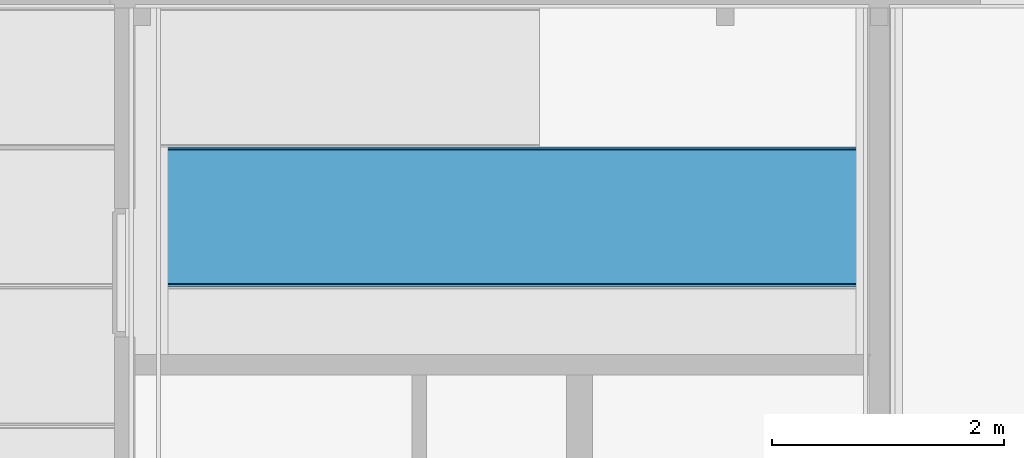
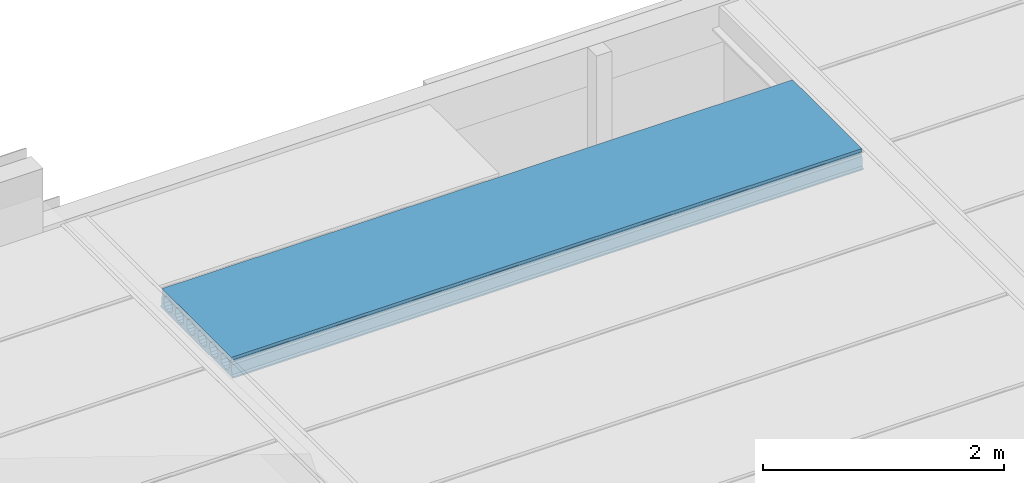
# One storey, part 15 of 45: 1 beam.
"""IFC2X3 building model written with IfcOpenShell, lengths in millimetres."""

from ifc_helpers import new_model, entity, si_unit, converted_unit, frame, origin, place, context, subcontext, project, spatial, faceted_brep, material, element, save


model = new_model("IFC2X3")

# Units and contexts
model_context = context("Model", 3, precision=1e-05, world=origin())
plan_context = context("Plan", 3, precision=1e-05, world=origin())
body_context = subcontext(model_context, "Body", "Model", "MODEL_VIEW")
ifc_project = project(units=[si_unit("LENGTHUNIT", "METRE", prefix="MILLI"), converted_unit("PLANEANGLEUNIT", "DEGREE", entity("IfcPlaneAngleMeasure", 0.0174532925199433), si_unit("PLANEANGLEUNIT", "RADIAN"), dimensions=[0, 0, 0, 0, 0, 0, 0]), si_unit("AREAUNIT", "SQUARE_METRE"), si_unit("VOLUMEUNIT", "CUBIC_METRE")], contexts=[model_context, plan_context])

# Building, storey
building_placement = place(None, origin())
building = spatial("IfcBuilding", under=ifc_project, at=building_placement, Name="HEKF Administrasjonbygg", CompositionType="ELEMENT")
storey_placement = place(building_placement, frame((0.0, 0.0, 6500.0), z_axis=(0.0, 0.0, 1.0), x_axis=(1.0, 0.0, 0.0)))
storey = spatial("IfcBuildingStorey", under=building, at=storey_placement, Name="Plan 1", CompositionType="ELEMENT", Elevation=6500.0)

# Beam
ifc_material = material()
beam_placement = place(storey_placement, frame((0.0, 0.0, -6500.0), z_axis=(0.0, 0.0, 1.0), x_axis=(1.0, 0.0, 0.0)))
element("IfcBeam", 1, at=beam_placement, inside=storey, material=ifc_material, context=body_context, shape_type="Brep", body=[
    faceted_brep([(10135.0, -1199.999999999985, 9684.999999), (10135.0, -1199.999999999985, 9670.0), (16189.99999999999, -1200.0, 9670.000000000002), (16189.99999999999, -1200.0, 9684.999999), (10135.0, -2399.999999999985, 9684.999999), (10135.0, -2399.999999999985, 9670.0), (10135.0, -1199.999999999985, 9670.0), (10135.0, -1199.999999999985, 9684.999999), (10135.0, -1214.99987952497, 9699.999998), (10135.0, -1220.000002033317, 9794.999985), (10135.0, -1235.000003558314, 9809.999985), (10135.0, -1235.000003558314, 9829.999985), (10135.0, -1222.727297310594, 9842.272583), (10135.0, -1224.047732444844, 9870.0), (10135.0, -2375.952372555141, 9870.0), (10135.0, -2377.272729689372, 9842.272735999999), (10135.0, -2365.000000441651, 9829.999985), (10135.0, -2365.000000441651, 9809.999985), (10135.0, -2380.000001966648, 9794.999985), (10135.0, -2384.999999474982, 9699.999998), (10135.0, -2274.999987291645, 9694.999989), (10135.0, -2303.701261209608, 9700.709023), (10135.0, -2328.033020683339, 9716.966995), (10135.0, -2344.290964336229, 9741.298752), (10135.0, -2344.290960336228, 9798.701262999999), (10135.0, -2328.032997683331, 9823.03299), (10135.0, -2303.70124620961, 9839.290955), (10135.0, -2274.999987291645, 9845.0), (10135.0, -2246.298721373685, 9839.290955), (10135.0, -2221.966976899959, 9823.033005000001), (10135.0, -2205.709010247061, 9798.701233), (10135.0, -2205.708980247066, 9741.298767), (10135.0, -2221.966961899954, 9716.966995), (10135.0, -2246.29870537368, 9700.709023), (10135.0, -2084.999967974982, 9694.999989), (10135.0, -2113.701241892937, 9700.709023), (10135.0, -2138.033001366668, 9716.966995), (10135.0, -2154.290945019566, 9741.298752), (10135.0, -2154.290941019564, 9798.701262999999), (10135.0, -2138.032978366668, 9823.03299), (10135.0, -2113.701226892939, 9839.290955), (10135.0, -2084.999967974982, 9845.0), (10135.0, -2056.298702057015, 9839.290955), (10135.0, -2031.966957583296, 9823.033005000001), (10135.0, -2015.708990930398, 9798.701233), (10135.0, -2015.708960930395, 9741.298767), (10135.0, -2031.966942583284, 9716.966995), (10135.0, -2056.298686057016, 9700.709023), (10135.0, -1894.999948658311, 9694.999989), (10135.0, -1923.701222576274, 9700.709023), (10135.0, -1948.032982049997, 9716.966995), (10135.0, -1964.290925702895, 9741.298752), (10135.0, -1964.290921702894, 9798.701262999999), (10135.0, -1948.032959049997, 9823.03299), (10135.0, -1923.701207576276, 9839.290955), (10135.0, -1894.999948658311, 9845.0), (10135.0, -1866.298682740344, 9839.290955), (10135.0, -1841.966938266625, 9823.033005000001), (10135.0, -1825.708971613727, 9798.701233), (10135.0, -1825.708941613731, 9741.298767), (10135.0, -1841.96692326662, 9716.966995), (10135.0, -1866.298666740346, 9700.709023), (10135.0, -1704.99992934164, 9694.999989), (10135.0, -1733.701203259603, 9700.709023), (10135.0, -1758.032962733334, 9716.966995), (10135.0, -1774.290906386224, 9741.298752), (10135.0, -1774.290902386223, 9798.701262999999), (10135.0, -1758.032939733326, 9823.03299), (10135.0, -1733.701188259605, 9839.290955), (10135.0, -1704.99992934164, 9845.0), (10135.0, -1676.29866342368, 9839.290955), (10135.0, -1651.966918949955, 9823.033005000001), (10135.0, -1635.708952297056, 9798.701233), (10135.0, -1635.708922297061, 9741.298767), (10135.0, -1651.96690394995, 9716.966995), (10135.0, -1676.298647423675, 9700.709023), (10135.0, -1514.999910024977, 9694.999989), (10135.0, -1543.701183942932, 9700.709023), (10135.0, -1568.032943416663, 9716.966995), (10135.0, -1584.290887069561, 9741.298752), (10135.0, -1584.29088306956, 9798.701262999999), (10135.0, -1568.032920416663, 9823.03299), (10135.0, -1543.701168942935, 9839.290955), (10135.0, -1514.999910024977, 9845.0), (10135.0, -1486.29864410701, 9839.290955), (10135.0, -1461.966899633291, 9823.033005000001), (10135.0, -1445.708932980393, 9798.701233), (10135.0, -1445.70890298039, 9741.298767), (10135.0, -1461.966884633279, 9716.966995), (10135.0, -1486.298628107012, 9700.709023), (10135.0, -1324.999890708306, 9694.999989), (10135.0, -1353.701164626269, 9700.709023), (10135.0, -1378.032924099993, 9716.966995), (10135.0, -1394.29086775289, 9741.298752), (10135.0, -1394.290863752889, 9798.701262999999), (10135.0, -1378.032901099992, 9823.03299), (10135.0, -1353.701149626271, 9839.290955), (10135.0, -1324.999890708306, 9845.0), (10135.0, -1296.298624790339, 9839.290955), (10135.0, -1271.966880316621, 9823.033005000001), (10135.0, -1255.708913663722, 9798.701233), (10135.0, -1255.708883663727, 9741.298767), (10135.0, -1271.966865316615, 9716.966995), (10135.0, -1296.298608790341, 9700.709023), (16190.0, -2400.0, 9684.999999), (16190.0, -2400.0, 9670.0), (10135.0, -2399.999999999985, 9670.0), (10135.0, -2399.999999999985, 9684.999999), (16189.99999999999, -1200.0, 9684.999999), (16189.99999999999, -1200.0, 9670.000000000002), (16190.0, -2400.0, 9670.0), (16190.0, -2400.0, 9684.999999), (16190.0, -2384.999999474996, 9699.999998), (16190.0, -2380.000001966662, 9794.999985), (16190.0, -2365.000000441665, 9809.999985), (16190.0, -2365.000000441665, 9829.999985), (16190.0, -2377.272729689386, 9842.272735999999), (16190.0, -2375.952372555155, 9870.0), (16190.0, -1224.047732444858, 9870.0), (16190.0, -1222.727297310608, 9842.272583), (16190.0, -1235.000003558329, 9829.999985), (16190.0, -1235.000003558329, 9809.999985), (16190.0, -1220.000002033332, 9794.999985), (16190.0, -1214.999879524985, 9699.999998), (16190.0, -1324.999890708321, 9694.999989), (16190.0, -1296.298608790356, 9700.709023), (16190.0, -1271.96686531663, 9716.966995), (16190.0, -1255.708883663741, 9741.298767), (16190.0, -1255.708913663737, 9798.701233), (16190.0, -1271.966880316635, 9823.033005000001), (16190.0, -1296.298624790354, 9839.290955), (16190.0, -1324.999890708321, 9845.0), (16190.0, -1353.701149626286, 9839.290955), (16190.0, -1378.032901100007, 9823.03299), (16190.0, -1394.290863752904, 9798.701262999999), (16190.0, -1394.290867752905, 9741.298752), (16190.0, -1378.032924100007, 9716.966995), (16190.0, -1353.701164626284, 9700.709023), (16190.0, -1514.999910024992, 9694.999989), (16190.0, -1486.298628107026, 9700.709023), (16190.0, -1461.966884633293, 9716.966995), (16190.0, -1445.708902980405, 9741.298767), (16190.0, -1445.708932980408, 9798.701233), (16190.0, -1461.966899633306, 9823.033005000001), (16190.0, -1486.298644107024, 9839.290955), (16190.0, -1514.999910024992, 9845.0), (16190.0, -1543.701168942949, 9839.290955), (16190.0, -1568.032920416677, 9823.03299), (16190.0, -1584.290883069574, 9798.701262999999), (16190.0, -1584.290887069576, 9741.298752), (16190.0, -1568.032943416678, 9716.966995), (16190.0, -1543.701183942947, 9700.709023), (16190.0, -1704.999929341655, 9694.999989), (16190.0, -1676.29864742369, 9700.709023), (16190.0, -1651.966903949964, 9716.966995), (16190.0, -1635.708922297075, 9741.298767), (16190.0, -1635.708952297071, 9798.701233), (16190.0, -1651.966918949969, 9823.033005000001), (16190.0, -1676.298663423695, 9839.290955), (16190.0, -1704.999929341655, 9845.0), (16190.0, -1733.70118825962, 9839.290955), (16190.0, -1758.032939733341, 9823.03299), (16190.0, -1774.290902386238, 9798.701262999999), (16190.0, -1774.290906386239, 9741.298752), (16190.0, -1758.032962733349, 9716.966995), (16190.0, -1733.701203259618, 9700.709023), (16190.0, -1894.999948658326, 9694.999989), (16190.0, -1866.29866674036, 9700.709023), (16190.0, -1841.966923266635, 9716.966995), (16190.0, -1825.708941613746, 9741.298767), (16190.0, -1825.708971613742, 9798.701233), (16190.0, -1841.96693826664, 9823.033005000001), (16190.0, -1866.298682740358, 9839.290955), (16190.0, -1894.999948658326, 9845.0), (16190.0, -1923.701207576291, 9839.290955), (16190.0, -1948.032959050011, 9823.03299), (16190.0, -1964.290921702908, 9798.701262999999), (16190.0, -1964.29092570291, 9741.298752), (16190.0, -1948.032982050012, 9716.966995), (16190.0, -1923.701222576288, 9700.709023), (16190.0, -2084.999967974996, 9694.999989), (16190.0, -2056.298686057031, 9700.709023), (16190.0, -2031.966942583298, 9716.966995), (16190.0, -2015.708960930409, 9741.298767), (16190.0, -2015.708990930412, 9798.701233), (16190.0, -2031.96695758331, 9823.033005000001), (16190.0, -2056.298702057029, 9839.290955), (16190.0, -2084.999967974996, 9845.0), (16190.0, -2113.701226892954, 9839.290955), (16190.0, -2138.032978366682, 9823.03299), (16190.0, -2154.290941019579, 9798.701262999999), (16190.0, -2154.29094501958, 9741.298752), (16190.0, -2138.033001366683, 9716.966995), (16190.0, -2113.701241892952, 9700.709023), (16190.0, -2274.99998729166, 9694.999989), (16190.0, -2246.298705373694, 9700.709023), (16190.0, -2221.966961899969, 9716.966995), (16190.0, -2205.70898024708, 9741.298767), (16190.0, -2205.709010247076, 9798.701233), (16190.0, -2221.966976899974, 9823.033005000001), (16190.0, -2246.2987213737, 9839.290955), (16190.0, -2274.99998729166, 9845.0), (16190.0, -2303.701246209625, 9839.290955), (16190.0, -2328.032997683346, 9823.03299), (16190.0, -2344.290960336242, 9798.701262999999), (16190.0, -2344.290964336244, 9741.298752), (16190.0, -2328.033020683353, 9716.966995), (16190.0, -2303.701261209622, 9700.709023), (10135.0, -2399.999999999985, 9684.999999), (10135.0, -2384.999999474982, 9699.999998), (16190.0, -2384.999999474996, 9699.999998), (16190.0, -2400.0, 9684.999999), (10135.0, -2384.999999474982, 9699.999998), (10135.0, -2380.000001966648, 9794.999985), (16190.0, -2380.000001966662, 9794.999985), (16190.0, -2384.999999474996, 9699.999998), (10135.0, -2380.000001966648, 9794.999985), (10135.0, -2365.000000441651, 9809.999985), (16190.0, -2365.000000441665, 9809.999985), (16190.0, -2380.000001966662, 9794.999985), (10135.0, -2365.000000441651, 9809.999985), (10135.0, -2365.000000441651, 9829.999985), (16190.0, -2365.000000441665, 9829.999985), (16190.0, -2365.000000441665, 9809.999985), (10135.0, -2365.000000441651, 9829.999985), (10135.0, -2377.272729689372, 9842.272735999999), (16190.0, -2377.272729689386, 9842.272735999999), (16190.0, -2365.000000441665, 9829.999985), (10135.0, -2377.272729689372, 9842.272735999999), (10135.0, -2375.952372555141, 9870.0), (16190.0, -2375.952372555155, 9870.0), (16190.0, -2377.272729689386, 9842.272735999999), (10135.0, -2375.952372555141, 9870.0), (10135.0, -1224.047732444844, 9870.0), (16190.0, -1224.047732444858, 9870.0), (16190.0, -2375.952372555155, 9870.0), (10135.0, -1224.047732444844, 9870.0), (10135.0, -1222.727297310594, 9842.272583), (16190.0, -1222.727297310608, 9842.272583), (16190.0, -1224.047732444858, 9870.0), (10135.0, -1222.727297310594, 9842.272583), (10135.0, -1235.000003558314, 9829.999985), (16190.0, -1235.000003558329, 9829.999985), (16190.0, -1222.727297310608, 9842.272583), (10135.0, -1235.000003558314, 9829.999985), (10135.0, -1235.000003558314, 9809.999985), (16190.0, -1235.000003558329, 9809.999985), (16190.0, -1235.000003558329, 9829.999985), (10135.0, -1235.000003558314, 9809.999985), (10135.0, -1220.000002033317, 9794.999985), (16190.0, -1220.000002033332, 9794.999985), (16190.0, -1235.000003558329, 9809.999985), (10135.0, -1220.000002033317, 9794.999985), (10135.0, -1214.99987952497, 9699.999998), (16190.0, -1214.999879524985, 9699.999998), (16190.0, -1220.000002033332, 9794.999985), (10135.0, -1214.99987952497, 9699.999998), (10135.0, -1199.999999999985, 9684.999999), (16189.99999999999, -1200.0, 9684.999999), (16190.0, -1214.999879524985, 9699.999998), (10135.0, -1199.999999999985, 9670.0), (10135.0, -2399.999999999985, 9670.0), (16190.0, -2400.0, 9670.0), (16189.99999999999, -1200.0, 9670.000000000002), (10135.0, -1324.999890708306, 9694.999989), (10135.0, -1296.298608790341, 9700.709023), (16190.0, -1296.298608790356, 9700.709023), (16190.0, -1324.999890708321, 9694.999989), (10135.0, -1296.298608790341, 9700.709023), (10135.0, -1271.966865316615, 9716.966995), (16190.0, -1271.96686531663, 9716.966995), (16190.0, -1296.298608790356, 9700.709023), (10135.0, -1271.966865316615, 9716.966995), (10135.0, -1255.708883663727, 9741.298767), (16190.0, -1255.708883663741, 9741.298767), (16190.0, -1271.96686531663, 9716.966995), (10135.0, -1255.708883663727, 9741.298767), (10135.0, -1255.708913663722, 9798.701233), (16190.0, -1255.708913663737, 9798.701233), (16190.0, -1255.708883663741, 9741.298767), (10135.0, -1255.708913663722, 9798.701233), (10135.0, -1271.966880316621, 9823.033005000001), (16190.0, -1271.966880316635, 9823.033005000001), (16190.0, -1255.708913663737, 9798.701233), (10135.0, -1271.966880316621, 9823.033005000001), (10135.0, -1296.298624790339, 9839.290955), (16190.0, -1296.298624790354, 9839.290955), (16190.0, -1271.966880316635, 9823.033005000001), (10135.0, -1296.298624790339, 9839.290955), (10135.0, -1324.999890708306, 9845.0), (16190.0, -1324.999890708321, 9845.0), (16190.0, -1296.298624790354, 9839.290955), (10135.0, -1324.999890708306, 9845.0), (10135.0, -1353.701149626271, 9839.290955), (16190.0, -1353.701149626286, 9839.290955), (16190.0, -1324.999890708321, 9845.0), (10135.0, -1353.701149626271, 9839.290955), (10135.0, -1378.032901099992, 9823.03299), (16190.0, -1378.032901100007, 9823.03299), (16190.0, -1353.701149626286, 9839.290955), (10135.0, -1378.032901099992, 9823.03299), (10135.0, -1394.290863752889, 9798.701262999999), (16190.0, -1394.290863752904, 9798.701262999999), (16190.0, -1378.032901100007, 9823.03299), (10135.0, -1394.290863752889, 9798.701262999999), (10135.0, -1394.29086775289, 9741.298752), (16190.0, -1394.290867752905, 9741.298752), (16190.0, -1394.290863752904, 9798.701262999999), (10135.0, -1394.29086775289, 9741.298752), (10135.0, -1378.032924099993, 9716.966995), (16190.0, -1378.032924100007, 9716.966995), (16190.0, -1394.290867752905, 9741.298752), (10135.0, -1378.032924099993, 9716.966995), (10135.0, -1353.701164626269, 9700.709023), (16190.0, -1353.701164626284, 9700.709023), (16190.0, -1378.032924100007, 9716.966995), (10135.0, -1353.701164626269, 9700.709023), (10135.0, -1324.999890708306, 9694.999989), (16190.0, -1324.999890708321, 9694.999989), (16190.0, -1353.701164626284, 9700.709023), (10135.0, -1514.999910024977, 9694.999989), (10135.0, -1486.298628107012, 9700.709023), (16190.0, -1486.298628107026, 9700.709023), (16190.0, -1514.999910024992, 9694.999989), (10135.0, -1486.298628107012, 9700.709023), (10135.0, -1461.966884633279, 9716.966995), (16190.0, -1461.966884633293, 9716.966995), (16190.0, -1486.298628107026, 9700.709023), (10135.0, -1461.966884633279, 9716.966995), (10135.0, -1445.70890298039, 9741.298767), (16190.0, -1445.708902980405, 9741.298767), (16190.0, -1461.966884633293, 9716.966995), (10135.0, -1445.70890298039, 9741.298767), (10135.0, -1445.708932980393, 9798.701233), (16190.0, -1445.708932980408, 9798.701233), (16190.0, -1445.708902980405, 9741.298767), (10135.0, -1445.708932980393, 9798.701233), (10135.0, -1461.966899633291, 9823.033005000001), (16190.0, -1461.966899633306, 9823.033005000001), (16190.0, -1445.708932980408, 9798.701233), (10135.0, -1461.966899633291, 9823.033005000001), (10135.0, -1486.29864410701, 9839.290955), (16190.0, -1486.298644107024, 9839.290955), (16190.0, -1461.966899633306, 9823.033005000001), (10135.0, -1486.29864410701, 9839.290955), (10135.0, -1514.999910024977, 9845.0), (16190.0, -1514.999910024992, 9845.0), (16190.0, -1486.298644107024, 9839.290955), (10135.0, -1514.999910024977, 9845.0), (10135.0, -1543.701168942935, 9839.290955), (16190.0, -1543.701168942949, 9839.290955), (16190.0, -1514.999910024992, 9845.0), (10135.0, -1543.701168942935, 9839.290955), (10135.0, -1568.032920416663, 9823.03299), (16190.0, -1568.032920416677, 9823.03299), (16190.0, -1543.701168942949, 9839.290955), (10135.0, -1568.032920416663, 9823.03299), (10135.0, -1584.29088306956, 9798.701262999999), (16190.0, -1584.290883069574, 9798.701262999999), (16190.0, -1568.032920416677, 9823.03299), (10135.0, -1584.29088306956, 9798.701262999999), (10135.0, -1584.290887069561, 9741.298752), (16190.0, -1584.290887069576, 9741.298752), (16190.0, -1584.290883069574, 9798.701262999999), (10135.0, -1584.290887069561, 9741.298752), (10135.0, -1568.032943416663, 9716.966995), (16190.0, -1568.032943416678, 9716.966995), (16190.0, -1584.290887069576, 9741.298752), (10135.0, -1568.032943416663, 9716.966995), (10135.0, -1543.701183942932, 9700.709023), (16190.0, -1543.701183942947, 9700.709023), (16190.0, -1568.032943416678, 9716.966995), (10135.0, -1543.701183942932, 9700.709023), (10135.0, -1514.999910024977, 9694.999989), (16190.0, -1514.999910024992, 9694.999989), (16190.0, -1543.701183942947, 9700.709023), (10135.0, -1704.99992934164, 9694.999989), (10135.0, -1676.298647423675, 9700.709023), (16190.0, -1676.29864742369, 9700.709023), (16190.0, -1704.999929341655, 9694.999989), (10135.0, -1676.298647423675, 9700.709023), (10135.0, -1651.96690394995, 9716.966995), (16190.0, -1651.966903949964, 9716.966995), (16190.0, -1676.29864742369, 9700.709023), (10135.0, -1651.96690394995, 9716.966995), (10135.0, -1635.708922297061, 9741.298767), (16190.0, -1635.708922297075, 9741.298767), (16190.0, -1651.966903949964, 9716.966995), (10135.0, -1635.708922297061, 9741.298767), (10135.0, -1635.708952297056, 9798.701233), (16190.0, -1635.708952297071, 9798.701233), (16190.0, -1635.708922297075, 9741.298767), (10135.0, -1635.708952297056, 9798.701233), (10135.0, -1651.966918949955, 9823.033005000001), (16190.0, -1651.966918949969, 9823.033005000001), (16190.0, -1635.708952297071, 9798.701233), (10135.0, -1651.966918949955, 9823.033005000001), (10135.0, -1676.29866342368, 9839.290955), (16190.0, -1676.298663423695, 9839.290955), (16190.0, -1651.966918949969, 9823.033005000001), (10135.0, -1676.29866342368, 9839.290955), (10135.0, -1704.99992934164, 9845.0), (16190.0, -1704.999929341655, 9845.0), (16190.0, -1676.298663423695, 9839.290955), (10135.0, -1704.99992934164, 9845.0), (10135.0, -1733.701188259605, 9839.290955), (16190.0, -1733.70118825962, 9839.290955), (16190.0, -1704.999929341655, 9845.0), (10135.0, -1733.701188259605, 9839.290955), (10135.0, -1758.032939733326, 9823.03299), (16190.0, -1758.032939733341, 9823.03299), (16190.0, -1733.70118825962, 9839.290955), (10135.0, -1758.032939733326, 9823.03299), (10135.0, -1774.290902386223, 9798.701262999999), (16190.0, -1774.290902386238, 9798.701262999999), (16190.0, -1758.032939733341, 9823.03299), (10135.0, -1774.290902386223, 9798.701262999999), (10135.0, -1774.290906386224, 9741.298752), (16190.0, -1774.290906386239, 9741.298752), (16190.0, -1774.290902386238, 9798.701262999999), (10135.0, -1774.290906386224, 9741.298752), (10135.0, -1758.032962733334, 9716.966995), (16190.0, -1758.032962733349, 9716.966995), (16190.0, -1774.290906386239, 9741.298752), (10135.0, -1758.032962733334, 9716.966995), (10135.0, -1733.701203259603, 9700.709023), (16190.0, -1733.701203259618, 9700.709023), (16190.0, -1758.032962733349, 9716.966995), (10135.0, -1733.701203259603, 9700.709023), (10135.0, -1704.99992934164, 9694.999989), (16190.0, -1704.999929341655, 9694.999989), (16190.0, -1733.701203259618, 9700.709023), (10135.0, -1894.999948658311, 9694.999989), (10135.0, -1866.298666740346, 9700.709023), (16190.0, -1866.29866674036, 9700.709023), (16190.0, -1894.999948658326, 9694.999989), (10135.0, -1866.298666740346, 9700.709023), (10135.0, -1841.96692326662, 9716.966995), (16190.0, -1841.966923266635, 9716.966995), (16190.0, -1866.29866674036, 9700.709023), (10135.0, -1841.96692326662, 9716.966995), (10135.0, -1825.708941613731, 9741.298767), (16190.0, -1825.708941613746, 9741.298767), (16190.0, -1841.966923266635, 9716.966995), (10135.0, -1825.708941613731, 9741.298767), (10135.0, -1825.708971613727, 9798.701233), (16190.0, -1825.708971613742, 9798.701233), (16190.0, -1825.708941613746, 9741.298767), (10135.0, -1825.708971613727, 9798.701233), (10135.0, -1841.966938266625, 9823.033005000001), (16190.0, -1841.96693826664, 9823.033005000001), (16190.0, -1825.708971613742, 9798.701233), (10135.0, -1841.966938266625, 9823.033005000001), (10135.0, -1866.298682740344, 9839.290955), (16190.0, -1866.298682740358, 9839.290955), (16190.0, -1841.96693826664, 9823.033005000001), (10135.0, -1866.298682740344, 9839.290955), (10135.0, -1894.999948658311, 9845.0), (16190.0, -1894.999948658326, 9845.0), (16190.0, -1866.298682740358, 9839.290955), (10135.0, -1894.999948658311, 9845.0), (10135.0, -1923.701207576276, 9839.290955), (16190.0, -1923.701207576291, 9839.290955), (16190.0, -1894.999948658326, 9845.0), (10135.0, -1923.701207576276, 9839.290955), (10135.0, -1948.032959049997, 9823.03299), (16190.0, -1948.032959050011, 9823.03299), (16190.0, -1923.701207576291, 9839.290955), (10135.0, -1948.032959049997, 9823.03299), (10135.0, -1964.290921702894, 9798.701262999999), (16190.0, -1964.290921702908, 9798.701262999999), (16190.0, -1948.032959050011, 9823.03299), (10135.0, -1964.290921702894, 9798.701262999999), (10135.0, -1964.290925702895, 9741.298752), (16190.0, -1964.29092570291, 9741.298752), (16190.0, -1964.290921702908, 9798.701262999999), (10135.0, -1964.290925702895, 9741.298752), (10135.0, -1948.032982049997, 9716.966995), (16190.0, -1948.032982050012, 9716.966995), (16190.0, -1964.29092570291, 9741.298752), (10135.0, -1948.032982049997, 9716.966995), (10135.0, -1923.701222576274, 9700.709023), (16190.0, -1923.701222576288, 9700.709023), (16190.0, -1948.032982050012, 9716.966995), (10135.0, -1923.701222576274, 9700.709023), (10135.0, -1894.999948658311, 9694.999989), (16190.0, -1894.999948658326, 9694.999989), (16190.0, -1923.701222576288, 9700.709023), (10135.0, -2084.999967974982, 9694.999989), (10135.0, -2056.298686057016, 9700.709023), (16190.0, -2056.298686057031, 9700.709023), (16190.0, -2084.999967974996, 9694.999989), (10135.0, -2056.298686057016, 9700.709023), (10135.0, -2031.966942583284, 9716.966995), (16190.0, -2031.966942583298, 9716.966995), (16190.0, -2056.298686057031, 9700.709023), (10135.0, -2031.966942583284, 9716.966995), (10135.0, -2015.708960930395, 9741.298767), (16190.0, -2015.708960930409, 9741.298767), (16190.0, -2031.966942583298, 9716.966995), (10135.0, -2015.708960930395, 9741.298767), (10135.0, -2015.708990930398, 9798.701233), (16190.0, -2015.708990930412, 9798.701233), (16190.0, -2015.708960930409, 9741.298767), (10135.0, -2015.708990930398, 9798.701233), (10135.0, -2031.966957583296, 9823.033005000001), (16190.0, -2031.96695758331, 9823.033005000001), (16190.0, -2015.708990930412, 9798.701233), (10135.0, -2031.966957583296, 9823.033005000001), (10135.0, -2056.298702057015, 9839.290955), (16190.0, -2056.298702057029, 9839.290955), (16190.0, -2031.96695758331, 9823.033005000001), (10135.0, -2056.298702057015, 9839.290955), (10135.0, -2084.999967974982, 9845.0), (16190.0, -2084.999967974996, 9845.0), (16190.0, -2056.298702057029, 9839.290955), (10135.0, -2084.999967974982, 9845.0), (10135.0, -2113.701226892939, 9839.290955), (16190.0, -2113.701226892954, 9839.290955), (16190.0, -2084.999967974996, 9845.0), (10135.0, -2113.701226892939, 9839.290955), (10135.0, -2138.032978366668, 9823.03299), (16190.0, -2138.032978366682, 9823.03299), (16190.0, -2113.701226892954, 9839.290955), (10135.0, -2138.032978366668, 9823.03299), (10135.0, -2154.290941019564, 9798.701262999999), (16190.0, -2154.290941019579, 9798.701262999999), (16190.0, -2138.032978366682, 9823.03299), (10135.0, -2154.290941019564, 9798.701262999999), (10135.0, -2154.290945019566, 9741.298752), (16190.0, -2154.29094501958, 9741.298752), (16190.0, -2154.290941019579, 9798.701262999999), (10135.0, -2154.290945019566, 9741.298752), (10135.0, -2138.033001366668, 9716.966995), (16190.0, -2138.033001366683, 9716.966995), (16190.0, -2154.29094501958, 9741.298752), (10135.0, -2138.033001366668, 9716.966995), (10135.0, -2113.701241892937, 9700.709023), (16190.0, -2113.701241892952, 9700.709023), (16190.0, -2138.033001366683, 9716.966995), (10135.0, -2113.701241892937, 9700.709023), (10135.0, -2084.999967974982, 9694.999989), (16190.0, -2084.999967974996, 9694.999989), (16190.0, -2113.701241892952, 9700.709023), (10135.0, -2274.999987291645, 9694.999989), (10135.0, -2246.29870537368, 9700.709023), (16190.0, -2246.298705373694, 9700.709023), (16190.0, -2274.99998729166, 9694.999989), (10135.0, -2246.29870537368, 9700.709023), (10135.0, -2221.966961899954, 9716.966995), (16190.0, -2221.966961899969, 9716.966995), (16190.0, -2246.298705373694, 9700.709023), (10135.0, -2221.966961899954, 9716.966995), (10135.0, -2205.708980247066, 9741.298767), (16190.0, -2205.70898024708, 9741.298767), (16190.0, -2221.966961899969, 9716.966995), (10135.0, -2205.708980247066, 9741.298767), (10135.0, -2205.709010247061, 9798.701233), (16190.0, -2205.709010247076, 9798.701233), (16190.0, -2205.70898024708, 9741.298767), (10135.0, -2205.709010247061, 9798.701233), (10135.0, -2221.966976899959, 9823.033005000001), (16190.0, -2221.966976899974, 9823.033005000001), (16190.0, -2205.709010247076, 9798.701233), (10135.0, -2221.966976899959, 9823.033005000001), (10135.0, -2246.298721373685, 9839.290955), (16190.0, -2246.2987213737, 9839.290955), (16190.0, -2221.966976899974, 9823.033005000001), (10135.0, -2246.298721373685, 9839.290955), (10135.0, -2274.999987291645, 9845.0), (16190.0, -2274.99998729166, 9845.0), (16190.0, -2246.2987213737, 9839.290955), (10135.0, -2274.999987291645, 9845.0), (10135.0, -2303.70124620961, 9839.290955), (16190.0, -2303.701246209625, 9839.290955), (16190.0, -2274.99998729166, 9845.0), (10135.0, -2303.70124620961, 9839.290955), (10135.0, -2328.032997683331, 9823.03299), (16190.0, -2328.032997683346, 9823.03299), (16190.0, -2303.701246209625, 9839.290955), (10135.0, -2328.032997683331, 9823.03299), (10135.0, -2344.290960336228, 9798.701262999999), (16190.0, -2344.290960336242, 9798.701262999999), (16190.0, -2328.032997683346, 9823.03299), (10135.0, -2344.290960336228, 9798.701262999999), (10135.0, -2344.290964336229, 9741.298752), (16190.0, -2344.290964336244, 9741.298752), (16190.0, -2344.290960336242, 9798.701262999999), (10135.0, -2344.290964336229, 9741.298752), (10135.0, -2328.033020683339, 9716.966995), (16190.0, -2328.033020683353, 9716.966995), (16190.0, -2344.290964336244, 9741.298752), (10135.0, -2328.033020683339, 9716.966995), (10135.0, -2303.701261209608, 9700.709023), (16190.0, -2303.701261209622, 9700.709023), (16190.0, -2328.033020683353, 9716.966995), (10135.0, -2303.701261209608, 9700.709023), (10135.0, -2274.999987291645, 9694.999989), (16190.0, -2274.99998729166, 9694.999989), (16190.0, -2303.701261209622, 9700.709023)], [[[0, 1, 2, 3]], [[4, 5, 6, 7, 8, 9, 10, 11, 12, 13, 14, 15, 16, 17, 18, 19], [20, 21, 22, 23, 24, 25, 26, 27, 28, 29, 30, 31, 32, 33], [34, 35, 36, 37, 38, 39, 40, 41, 42, 43, 44, 45, 46, 47], [48, 49, 50, 51, 52, 53, 54, 55, 56, 57, 58, 59, 60, 61], [62, 63, 64, 65, 66, 67, 68, 69, 70, 71, 72, 73, 74, 75], [76, 77, 78, 79, 80, 81, 82, 83, 84, 85, 86, 87, 88, 89], [90, 91, 92, 93, 94, 95, 96, 97, 98, 99, 100, 101, 102, 103]], [[104, 105, 106, 107]], [[108, 109, 110, 111, 112, 113, 114, 115, 116, 117, 118, 119, 120, 121, 122, 123], [124, 125, 126, 127, 128, 129, 130, 131, 132, 133, 134, 135, 136, 137], [138, 139, 140, 141, 142, 143, 144, 145, 146, 147, 148, 149, 150, 151], [152, 153, 154, 155, 156, 157, 158, 159, 160, 161, 162, 163, 164, 165], [166, 167, 168, 169, 170, 171, 172, 173, 174, 175, 176, 177, 178, 179], [180, 181, 182, 183, 184, 185, 186, 187, 188, 189, 190, 191, 192, 193], [194, 195, 196, 197, 198, 199, 200, 201, 202, 203, 204, 205, 206, 207]], [[208, 209, 210, 211]], [[212, 213, 214, 215]], [[216, 217, 218, 219]], [[220, 221, 222, 223]], [[224, 225, 226, 227]], [[228, 229, 230, 231]], [[232, 233, 234, 235]], [[236, 237, 238, 239]], [[240, 241, 242, 243]], [[244, 245, 246, 247]], [[248, 249, 250, 251]], [[252, 253, 254, 255]], [[256, 257, 258, 259]], [[260, 261, 262, 263]], [[264, 265, 266, 267]], [[268, 269, 270, 271]], [[272, 273, 274, 275]], [[276, 277, 278, 279]], [[280, 281, 282, 283]], [[284, 285, 286, 287]], [[288, 289, 290, 291]], [[292, 293, 294, 295]], [[296, 297, 298, 299]], [[300, 301, 302, 303]], [[304, 305, 306, 307]], [[308, 309, 310, 311]], [[312, 313, 314, 315]], [[316, 317, 318, 319]], [[320, 321, 322, 323]], [[324, 325, 326, 327]], [[328, 329, 330, 331]], [[332, 333, 334, 335]], [[336, 337, 338, 339]], [[340, 341, 342, 343]], [[344, 345, 346, 347]], [[348, 349, 350, 351]], [[352, 353, 354, 355]], [[356, 357, 358, 359]], [[360, 361, 362, 363]], [[364, 365, 366, 367]], [[368, 369, 370, 371]], [[372, 373, 374, 375]], [[376, 377, 378, 379]], [[380, 381, 382, 383]], [[384, 385, 386, 387]], [[388, 389, 390, 391]], [[392, 393, 394, 395]], [[396, 397, 398, 399]], [[400, 401, 402, 403]], [[404, 405, 406, 407]], [[408, 409, 410, 411]], [[412, 413, 414, 415]], [[416, 417, 418, 419]], [[420, 421, 422, 423]], [[424, 425, 426, 427]], [[428, 429, 430, 431]], [[432, 433, 434, 435]], [[436, 437, 438, 439]], [[440, 441, 442, 443]], [[444, 445, 446, 447]], [[448, 449, 450, 451]], [[452, 453, 454, 455]], [[456, 457, 458, 459]], [[460, 461, 462, 463]], [[464, 465, 466, 467]], [[468, 469, 470, 471]], [[472, 473, 474, 475]], [[476, 477, 478, 479]], [[480, 481, 482, 483]], [[484, 485, 486, 487]], [[488, 489, 490, 491]], [[492, 493, 494, 495]], [[496, 497, 498, 499]], [[500, 501, 502, 503]], [[504, 505, 506, 507]], [[508, 509, 510, 511]], [[512, 513, 514, 515]], [[516, 517, 518, 519]], [[520, 521, 522, 523]], [[524, 525, 526, 527]], [[528, 529, 530, 531]], [[532, 533, 534, 535]], [[536, 537, 538, 539]], [[540, 541, 542, 543]], [[544, 545, 546, 547]], [[548, 549, 550, 551]], [[552, 553, 554, 555]], [[556, 557, 558, 559]], [[560, 561, 562, 563]], [[564, 565, 566, 567]], [[568, 569, 570, 571]], [[572, 573, 574, 575]], [[576, 577, 578, 579]], [[580, 581, 582, 583]], [[584, 585, 586, 587]], [[588, 589, 590, 591]], [[592, 593, 594, 595]], [[596, 597, 598, 599]]], orient=[[False], [False, False, False, False, False, False, False], [False], [False, False, False, False, False, False, False], [False], [False], [False], [False], [False], [False], [False], [False], [False], [False], [False], [False], [False], [False], [False], [False], [False], [False], [False], [False], [False], [False], [False], [False], [False], [False], [False], [False], [False], [False], [False], [False], [False], [False], [False], [False], [False], [False], [False], [False], [False], [False], [False], [False], [False], [False], [False], [False], [False], [False], [False], [False], [False], [False], [False], [False], [False], [False], [False], [False], [False], [False], [False], [False], [False], [False], [False], [False], [False], [False], [False], [False], [False], [False], [False], [False], [False], [False], [False], [False], [False], [False], [False], [False], [False], [False], [False], [False], [False], [False], [False], [False], [False], [False], [False], [False], [False], [False]]),
])

save(model, "model.ifc")
